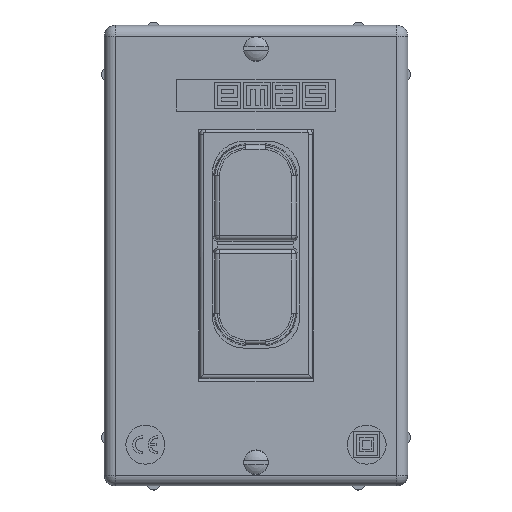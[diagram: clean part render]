
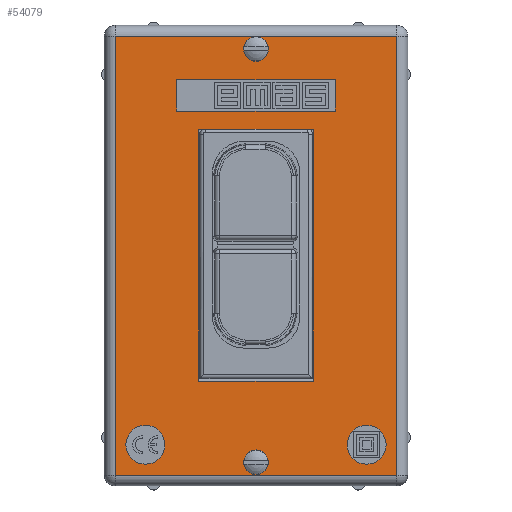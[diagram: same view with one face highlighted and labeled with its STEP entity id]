
A CAD part, top view. The second image highlights one B-rep face of the part: STEP entity #54079.
In plain terms, the highlighted planar face has unit normal (0, 0, 1).
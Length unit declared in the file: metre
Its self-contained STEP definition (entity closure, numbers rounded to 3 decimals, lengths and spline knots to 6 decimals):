
#49931=CARTESIAN_POINT('',(0.01675,0.00325,0.0711));
#49932=VERTEX_POINT('',#49931);
#49935=CARTESIAN_POINT('',(0.04885,0.00325,0.0711));
#49936=DIRECTION('',(-1.,0.,0.));
#49937=VECTOR('',#49936,1.);
#49938=LINE('',#49935,#49937);
#49939=CARTESIAN_POINT('',(0.04885,0.00325,0.0711));
#49940=VERTEX_POINT('',#49939);
#49941=EDGE_CURVE('',#49940,#49932,#49938,.T.);
#49977=CARTESIAN_POINT('',(0.04885,0.07385,0.0711));
#49978=VERTEX_POINT('',#49977);
#49998=CARTESIAN_POINT('',(0.04885,0.07385,0.0711));
#49999=DIRECTION('',(0.,1.,0.));
#50000=VECTOR('',#49999,1.);
#50001=LINE('',#49998,#50000);
#50002=EDGE_CURVE('',#49940,#49978,#50001,.T.);
#50024=CARTESIAN_POINT('',(0.01675,0.07385,0.0711));
#50025=VERTEX_POINT('',#50024);
#50037=CARTESIAN_POINT('',(0.04885,0.07385,0.0711));
#50038=DIRECTION('',(-1.,0.,0.));
#50039=VECTOR('',#50038,1.);
#50040=LINE('',#50037,#50039);
#50041=EDGE_CURVE('',#49978,#50025,#50040,.T.);
#50060=CARTESIAN_POINT('',(0.01675,0.07385,0.0711));
#50061=DIRECTION('',(0.,1.,0.));
#50062=VECTOR('',#50061,1.);
#50063=LINE('',#50060,#50062);
#50064=EDGE_CURVE('',#49932,#50025,#50063,.T.);
#50136=CARTESIAN_POINT('',(0.0328,0.09635,0.0711));
#50137=DIRECTION('',(0.,0.,1.));
#50138=DIRECTION('',(0.,1.,0.));
#50139=AXIS2_PLACEMENT_3D('',#50136,#50137,#50138);
#50140=CIRCLE('',#50139,0.00345);
#50141=CARTESIAN_POINT('',(0.0328,0.0929,0.0711));
#50142=VERTEX_POINT('',#50141);
#50143=EDGE_CURVE('',#50142,#50142,#50140,.T.);
#50847=CARTESIAN_POINT('',(0.0638,-0.01455,0.0711));
#50848=DIRECTION('',(0.,0.,1.));
#50849=DIRECTION('',(0.,1.,0.));
#50850=AXIS2_PLACEMENT_3D('',#50847,#50848,#50849);
#50851=CIRCLE('',#50850,0.00545);
#50852=CARTESIAN_POINT('',(0.0638,-0.02,0.0711));
#50853=VERTEX_POINT('',#50852);
#50854=EDGE_CURVE('',#50853,#50853,#50851,.T.);
#51438=CARTESIAN_POINT('',(0.0018,-0.01455,0.0711));
#51439=DIRECTION('',(0.,0.,1.));
#51440=DIRECTION('',(0.,1.,0.));
#51441=AXIS2_PLACEMENT_3D('',#51438,#51439,#51440);
#51442=CIRCLE('',#51441,0.00545);
#51443=CARTESIAN_POINT('',(0.0018,-0.02,0.0711));
#51444=VERTEX_POINT('',#51443);
#51445=EDGE_CURVE('',#51444,#51444,#51442,.T.);
#51463=CARTESIAN_POINT('',(0.05505,0.07895,0.0711));
#51464=DIRECTION('',(1.,0.,0.));
#51465=VECTOR('',#51464,1.);
#51466=LINE('',#51463,#51465);
#51467=CARTESIAN_POINT('',(0.01055,0.07895,0.0711));
#51468=VERTEX_POINT('',#51467);
#51469=CARTESIAN_POINT('',(0.05505,0.07895,0.0711));
#51470=VERTEX_POINT('',#51469);
#51471=EDGE_CURVE('',#51468,#51470,#51466,.T.);
#53908=CARTESIAN_POINT('',(0.05505,0.08765,0.0711));
#53909=DIRECTION('',(-1.,0.,0.));
#53910=VECTOR('',#53909,1.);
#53911=LINE('',#53908,#53910);
#53912=CARTESIAN_POINT('',(0.05505,0.08765,0.0711));
#53913=VERTEX_POINT('',#53912);
#53914=CARTESIAN_POINT('',(0.01055,0.08765,0.0711));
#53915=VERTEX_POINT('',#53914);
#53916=EDGE_CURVE('',#53913,#53915,#53911,.T.);
#53986=CARTESIAN_POINT('',(0.0328,-0.01945,0.0711));
#53987=DIRECTION('',(0.,0.,-1.));
#53988=DIRECTION('',(0.,-1.,0.));
#53989=AXIS2_PLACEMENT_3D('',#53986,#53987,#53988);
#53990=CIRCLE('',#53989,0.00345);
#53991=CARTESIAN_POINT('',(0.0328,-0.016,0.0711));
#53992=VERTEX_POINT('',#53991);
#53993=EDGE_CURVE('',#53992,#53992,#53990,.T.);
#54006=CARTESIAN_POINT('',(0.0328,0.03845,0.0711));
#54007=DIRECTION('',(0.,0.,-1.));
#54008=DIRECTION('',(0.,-1.,0.));
#54009=AXIS2_PLACEMENT_3D('',#54006,#54007,#54008);
#54010=PLANE('',#54009);
#54011=CARTESIAN_POINT('',(0.0723,0.10295,0.0711));
#54012=DIRECTION('',(0.,1.,0.));
#54013=VECTOR('',#54012,1.);
#54014=LINE('',#54011,#54013);
#54015=CARTESIAN_POINT('',(0.0723,-0.02305,0.0711));
#54016=VERTEX_POINT('',#54015);
#54017=CARTESIAN_POINT('',(0.0723,0.09995,0.0711));
#54018=VERTEX_POINT('',#54017);
#54019=EDGE_CURVE('',#54016,#54018,#54014,.T.);
#54020=ORIENTED_EDGE('',*,*,#54019,.T.);
#54021=CARTESIAN_POINT('',(-0.0097,0.09995,0.0711));
#54022=DIRECTION('',(-1.,0.,0.));
#54023=VECTOR('',#54022,1.);
#54024=LINE('',#54021,#54023);
#54025=CARTESIAN_POINT('',(-0.0067,0.09995,0.0711));
#54026=VERTEX_POINT('',#54025);
#54027=EDGE_CURVE('',#54018,#54026,#54024,.T.);
#54028=ORIENTED_EDGE('',*,*,#54027,.T.);
#54029=CARTESIAN_POINT('',(-0.0067,-0.02605,0.0711));
#54030=DIRECTION('',(0.,-1.,0.));
#54031=VECTOR('',#54030,1.);
#54032=LINE('',#54029,#54031);
#54033=CARTESIAN_POINT('',(-0.0067,-0.02305,0.0711));
#54034=VERTEX_POINT('',#54033);
#54035=EDGE_CURVE('',#54026,#54034,#54032,.T.);
#54036=ORIENTED_EDGE('',*,*,#54035,.T.);
#54037=CARTESIAN_POINT('',(0.0753,-0.02305,0.0711));
#54038=DIRECTION('',(1.,0.,0.));
#54039=VECTOR('',#54038,1.);
#54040=LINE('',#54037,#54039);
#54041=EDGE_CURVE('',#54034,#54016,#54040,.T.);
#54042=ORIENTED_EDGE('',*,*,#54041,.T.);
#54043=EDGE_LOOP('',(#54020,#54028,#54036,#54042));
#54044=FACE_BOUND('',#54043,.T.);
#54045=ORIENTED_EDGE('',*,*,#53993,.T.);
#54046=EDGE_LOOP('',(#54045));
#54047=FACE_BOUND('',#54046,.T.);
#54048=ORIENTED_EDGE('',*,*,#53916,.F.);
#54049=CARTESIAN_POINT('',(0.05505,0.07895,0.0711));
#54050=DIRECTION('',(0.,1.,0.));
#54051=VECTOR('',#54050,1.);
#54052=LINE('',#54049,#54051);
#54053=EDGE_CURVE('',#51470,#53913,#54052,.T.);
#54054=ORIENTED_EDGE('',*,*,#54053,.F.);
#54055=ORIENTED_EDGE('',*,*,#51471,.F.);
#54056=CARTESIAN_POINT('',(0.01055,0.07895,0.0711));
#54057=DIRECTION('',(0.,-1.,0.));
#54058=VECTOR('',#54057,1.);
#54059=LINE('',#54056,#54058);
#54060=EDGE_CURVE('',#53915,#51468,#54059,.T.);
#54061=ORIENTED_EDGE('',*,*,#54060,.F.);
#54062=EDGE_LOOP('',(#54048,#54054,#54055,#54061));
#54063=FACE_BOUND('',#54062,.T.);
#54064=ORIENTED_EDGE('',*,*,#51445,.F.);
#54065=EDGE_LOOP('',(#54064));
#54066=FACE_BOUND('',#54065,.T.);
#54067=ORIENTED_EDGE('',*,*,#50854,.F.);
#54068=EDGE_LOOP('',(#54067));
#54069=FACE_BOUND('',#54068,.T.);
#54070=ORIENTED_EDGE('',*,*,#50143,.F.);
#54071=EDGE_LOOP('',(#54070));
#54072=FACE_BOUND('',#54071,.T.);
#54073=ORIENTED_EDGE('',*,*,#50064,.T.);
#54074=ORIENTED_EDGE('',*,*,#50041,.F.);
#54075=ORIENTED_EDGE('',*,*,#50002,.F.);
#54076=ORIENTED_EDGE('',*,*,#49941,.T.);
#54077=EDGE_LOOP('',(#54073,#54074,#54075,#54076));
#54078=FACE_BOUND('',#54077,.T.);
#54079=ADVANCED_FACE('',(#54044,#54047,#54063,#54066,#54069,#54072,#54078),#54010,.F.);
